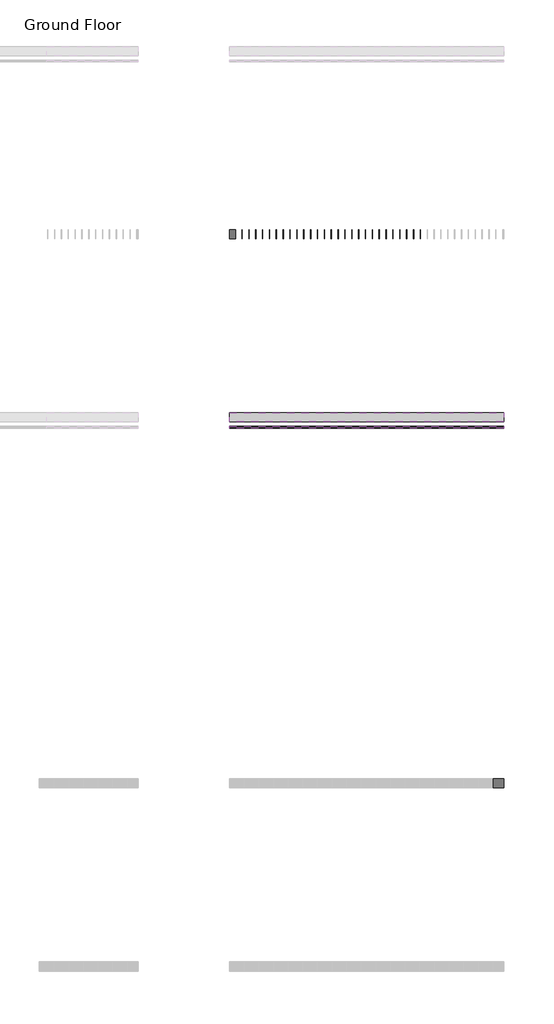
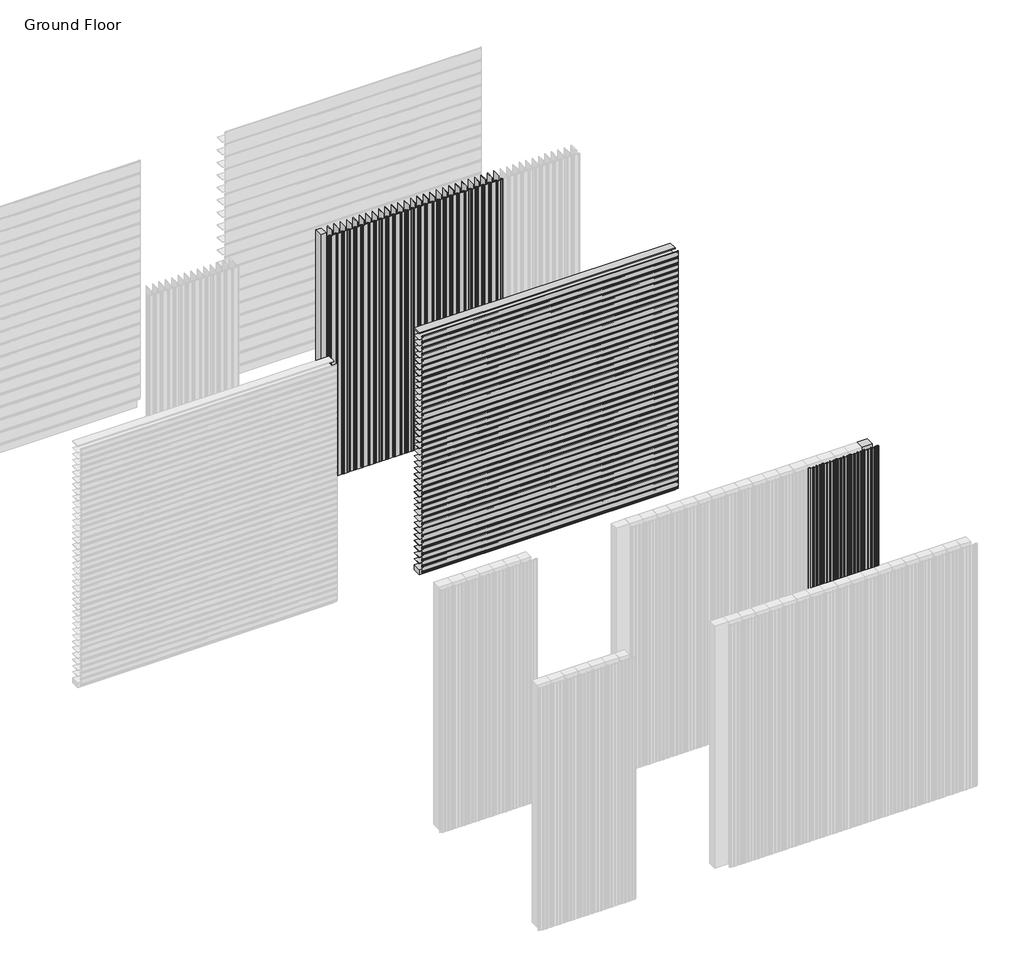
# One storey, part 36 of 350: 71 members, 69 plates.
"""IFC4 building model written with IfcOpenShell, lengths in millimetres."""

from ifc_helpers import new_model, si_unit, origin, place, context, project, spatial, transform, mapped, element, save
from components import rectangular_mullion_73ab8564, rectangular_mullion_894c3da7, empty_system_panel_empty_02c6fd44, empty_system_panel_empty_df7ddcff, empty_system_panel_empty_81cf2ed3, empty_system_panel_empty_a36746fc, empty_system_panel_empty_86793474, empty_system_panel_empty_27b459cb

model = new_model("IFC4")

# Units and contexts
model_context = context("Model", 3, world=origin())
ifc_project = project(units=[si_unit("LENGTHUNIT", "METRE", prefix="MILLI")], contexts=[model_context])

# Site, building, storey
site = spatial("IfcSite", under=ifc_project)
building = spatial("IfcBuilding", under=site)
storey = spatial("IfcBuildingStorey", under=building, Name="Ground Floor", Elevation=0.0)

# Members
placement = place(None, origin())
rectangular_mullion_shape = rectangular_mullion_73ab8564(model_context)
element("IfcMember", 1, ObjectType="Rectangular Mullion : Cladding_Aluminium_Modinex_AluSelekta_Castelation_ScreenClad_160Ultra_WhiteOak", at=placement, inside=storey, context=model_context, shape_type="MappedRepresentation", body=[
    mapped(rectangular_mullion_shape, transform((51156.4361642, 8968.2978302, 0.0), x_axis=(1.0, 0.0, 0.0), y_axis=(0.0, -1.0, 0.0), z_axis=(0.0, 0.0, -1.0))),
])
element("IfcMember", 2, ObjectType="Rectangular Mullion : Cladding_Aluminium_Modinex_AluSelekta_Castelation_ScreenClad_160Ultra_WhiteOak", at=placement, inside=storey, context=model_context, shape_type="MappedRepresentation", body=[
    mapped(rectangular_mullion_shape, transform((51316.4361642, 8968.2978302, 0.0), x_axis=(1.0, 0.0, 0.0), y_axis=(0.0, -1.0, 0.0), z_axis=(0.0, 0.0, -1.0))),
])
element("IfcMember", 3, ObjectType="Rectangular Mullion : Cladding_Aluminium_Modinex_AluSelekta_Castelation_ScreenClad_160Ultra_WhiteOak", at=placement, inside=storey, context=model_context, shape_type="MappedRepresentation", body=[
    mapped(rectangular_mullion_shape, transform((51476.4361642, 8968.2978302, 0.0), x_axis=(1.0, 0.0, 0.0), y_axis=(0.0, -1.0, 0.0), z_axis=(0.0, 0.0, -1.0))),
])
element("IfcMember", 4, ObjectType="Rectangular Mullion : Cladding_Aluminium_Modinex_AluSelekta_Castelation_ScreenClad_160Ultra_WhiteOak", at=placement, inside=storey, context=model_context, shape_type="MappedRepresentation", body=[
    mapped(rectangular_mullion_shape, transform((51636.4361642, 8968.2978302, 0.0), x_axis=(1.0, 0.0, 0.0), y_axis=(0.0, -1.0, 0.0), z_axis=(0.0, 0.0, -1.0))),
])
element("IfcMember", 5, ObjectType="Rectangular Mullion : Cladding_Aluminium_Modinex_AluSelekta_Castelation_ScreenClad_160Ultra_WhiteOak", at=placement, inside=storey, context=model_context, shape_type="MappedRepresentation", body=[
    mapped(rectangular_mullion_shape, transform((51796.4361642, 8968.2978302, 0.0), x_axis=(1.0, 0.0, 0.0), y_axis=(0.0, -1.0, 0.0), z_axis=(0.0, 0.0, -1.0))),
])
rectangular_mullion_2_shape = rectangular_mullion_894c3da7(model_context)
element("IfcMember", 6, ObjectType="Rectangular Mullion : Cladding_Aluminium_Modinex_AluSelekta_Channel_75_WhiteOak", at=placement, inside=storey, context=model_context, shape_type="MappedRepresentation", body=[
    mapped(rectangular_mullion_2_shape, transform((51916.4361639, 12968.2978302, 75.0), x_axis=(0.0, 0.0, 1.0), y_axis=(0.0, -1.0, 0.0), z_axis=(1.0, 0.0, 0.0))),
])
element("IfcMember", 7, ObjectType="Rectangular Mullion : Cladding_Aluminium_Modinex_AluSelekta_Channel_75_WhiteOak", at=placement, inside=storey, context=model_context, shape_type="MappedRepresentation", body=[
    mapped(rectangular_mullion_2_shape, transform((51916.4361639, 12968.2978302, 150.0), x_axis=(0.0, 0.0, 1.0), y_axis=(0.0, -1.0, 0.0), z_axis=(1.0, 0.0, 0.0))),
])
element("IfcMember", 8, ObjectType="Rectangular Mullion : Cladding_Aluminium_Modinex_AluSelekta_Channel_75_WhiteOak", at=placement, inside=storey, context=model_context, shape_type="MappedRepresentation", body=[
    mapped(rectangular_mullion_2_shape, transform((51916.4361639, 12968.2978302, 225.0), x_axis=(0.0, 0.0, 1.0), y_axis=(0.0, -1.0, 0.0), z_axis=(1.0, 0.0, 0.0))),
])
element("IfcMember", 9, ObjectType="Rectangular Mullion : Cladding_Aluminium_Modinex_AluSelekta_Channel_75_WhiteOak", at=placement, inside=storey, context=model_context, shape_type="MappedRepresentation", body=[
    mapped(rectangular_mullion_2_shape, transform((51916.4361639, 12968.2978302, 300.0), x_axis=(0.0, 0.0, 1.0), y_axis=(0.0, -1.0, 0.0), z_axis=(1.0, 0.0, 0.0))),
])
element("IfcMember", 10, ObjectType="Rectangular Mullion : Cladding_Aluminium_Modinex_AluSelekta_Channel_75_WhiteOak", at=placement, inside=storey, context=model_context, shape_type="MappedRepresentation", body=[
    mapped(rectangular_mullion_2_shape, transform((51916.4361639, 12968.2978302, 375.0), x_axis=(0.0, 0.0, 1.0), y_axis=(0.0, -1.0, 0.0), z_axis=(1.0, 0.0, 0.0))),
])
element("IfcMember", 11, ObjectType="Rectangular Mullion : Cladding_Aluminium_Modinex_AluSelekta_Channel_75_WhiteOak", at=placement, inside=storey, context=model_context, shape_type="MappedRepresentation", body=[
    mapped(rectangular_mullion_2_shape, transform((51916.4361639, 12968.2978302, 450.0), x_axis=(0.0, 0.0, 1.0), y_axis=(0.0, -1.0, 0.0), z_axis=(1.0, 0.0, 0.0))),
])
element("IfcMember", 12, ObjectType="Rectangular Mullion : Cladding_Aluminium_Modinex_AluSelekta_Channel_75_WhiteOak", at=placement, inside=storey, context=model_context, shape_type="MappedRepresentation", body=[
    mapped(rectangular_mullion_2_shape, transform((51916.4361639, 12968.2978302, 525.0), x_axis=(0.0, 0.0, 1.0), y_axis=(0.0, -1.0, 0.0), z_axis=(1.0, 0.0, 0.0))),
])
element("IfcMember", 13, ObjectType="Rectangular Mullion : Cladding_Aluminium_Modinex_AluSelekta_Channel_75_WhiteOak", at=placement, inside=storey, context=model_context, shape_type="MappedRepresentation", body=[
    mapped(rectangular_mullion_2_shape, transform((51916.4361639, 12968.2978302, 600.0), x_axis=(0.0, 0.0, 1.0), y_axis=(0.0, -1.0, 0.0), z_axis=(1.0, 0.0, 0.0))),
])
element("IfcMember", 14, ObjectType="Rectangular Mullion : Cladding_Aluminium_Modinex_AluSelekta_Channel_75_WhiteOak", at=placement, inside=storey, context=model_context, shape_type="MappedRepresentation", body=[
    mapped(rectangular_mullion_2_shape, transform((51916.4361639, 12968.2978302, 675.0), x_axis=(0.0, 0.0, 1.0), y_axis=(0.0, -1.0, 0.0), z_axis=(1.0, 0.0, 0.0))),
])
element("IfcMember", 15, ObjectType="Rectangular Mullion : Cladding_Aluminium_Modinex_AluSelekta_Channel_75_WhiteOak", at=placement, inside=storey, context=model_context, shape_type="MappedRepresentation", body=[
    mapped(rectangular_mullion_2_shape, transform((51916.4361639, 12968.2978302, 750.0), x_axis=(0.0, 0.0, 1.0), y_axis=(0.0, -1.0, 0.0), z_axis=(1.0, 0.0, 0.0))),
])
element("IfcMember", 16, ObjectType="Rectangular Mullion : Cladding_Aluminium_Modinex_AluSelekta_Channel_75_WhiteOak", at=placement, inside=storey, context=model_context, shape_type="MappedRepresentation", body=[
    mapped(rectangular_mullion_2_shape, transform((51916.4361639, 12968.2978302, 825.0), x_axis=(0.0, 0.0, 1.0), y_axis=(0.0, -1.0, 0.0), z_axis=(1.0, 0.0, 0.0))),
])
element("IfcMember", 17, ObjectType="Rectangular Mullion : Cladding_Aluminium_Modinex_AluSelekta_Channel_75_WhiteOak", at=placement, inside=storey, context=model_context, shape_type="MappedRepresentation", body=[
    mapped(rectangular_mullion_2_shape, transform((51916.4361639, 12968.2978302, 900.0), x_axis=(0.0, 0.0, 1.0), y_axis=(0.0, -1.0, 0.0), z_axis=(1.0, 0.0, 0.0))),
])
element("IfcMember", 18, ObjectType="Rectangular Mullion : Cladding_Aluminium_Modinex_AluSelekta_Channel_75_WhiteOak", at=placement, inside=storey, context=model_context, shape_type="MappedRepresentation", body=[
    mapped(rectangular_mullion_2_shape, transform((51916.4361639, 12968.2978302, 975.0), x_axis=(0.0, 0.0, 1.0), y_axis=(0.0, -1.0, 0.0), z_axis=(1.0, 0.0, 0.0))),
])
element("IfcMember", 19, ObjectType="Rectangular Mullion : Cladding_Aluminium_Modinex_AluSelekta_Channel_75_WhiteOak", at=placement, inside=storey, context=model_context, shape_type="MappedRepresentation", body=[
    mapped(rectangular_mullion_2_shape, transform((51916.4361639, 12968.2978302, 1050.0), x_axis=(0.0, 0.0, 1.0), y_axis=(0.0, -1.0, 0.0), z_axis=(1.0, 0.0, 0.0))),
])
element("IfcMember", 20, ObjectType="Rectangular Mullion : Cladding_Aluminium_Modinex_AluSelekta_Channel_75_WhiteOak", at=placement, inside=storey, context=model_context, shape_type="MappedRepresentation", body=[
    mapped(rectangular_mullion_2_shape, transform((51916.4361639, 12968.2978302, 1125.0), x_axis=(0.0, 0.0, 1.0), y_axis=(0.0, -1.0, 0.0), z_axis=(1.0, 0.0, 0.0))),
])
element("IfcMember", 21, ObjectType="Rectangular Mullion : Cladding_Aluminium_Modinex_AluSelekta_Channel_75_WhiteOak", at=placement, inside=storey, context=model_context, shape_type="MappedRepresentation", body=[
    mapped(rectangular_mullion_2_shape, transform((51916.4361639, 12968.2978302, 1200.0), x_axis=(0.0, 0.0, 1.0), y_axis=(0.0, -1.0, 0.0), z_axis=(1.0, 0.0, 0.0))),
])
element("IfcMember", 22, ObjectType="Rectangular Mullion : Cladding_Aluminium_Modinex_AluSelekta_Channel_75_WhiteOak", at=placement, inside=storey, context=model_context, shape_type="MappedRepresentation", body=[
    mapped(rectangular_mullion_2_shape, transform((51916.4361639, 12968.2978302, 1275.0), x_axis=(0.0, 0.0, 1.0), y_axis=(0.0, -1.0, 0.0), z_axis=(1.0, 0.0, 0.0))),
])
element("IfcMember", 23, ObjectType="Rectangular Mullion : Cladding_Aluminium_Modinex_AluSelekta_Channel_75_WhiteOak", at=placement, inside=storey, context=model_context, shape_type="MappedRepresentation", body=[
    mapped(rectangular_mullion_2_shape, transform((51916.4361639, 12968.2978302, 1350.0), x_axis=(0.0, 0.0, 1.0), y_axis=(0.0, -1.0, 0.0), z_axis=(1.0, 0.0, 0.0))),
])
element("IfcMember", 24, ObjectType="Rectangular Mullion : Cladding_Aluminium_Modinex_AluSelekta_Channel_75_WhiteOak", at=placement, inside=storey, context=model_context, shape_type="MappedRepresentation", body=[
    mapped(rectangular_mullion_2_shape, transform((51916.4361639, 12968.2978302, 1425.0), x_axis=(0.0, 0.0, 1.0), y_axis=(0.0, -1.0, 0.0), z_axis=(1.0, 0.0, 0.0))),
])
element("IfcMember", 25, ObjectType="Rectangular Mullion : Cladding_Aluminium_Modinex_AluSelekta_Channel_75_WhiteOak", at=placement, inside=storey, context=model_context, shape_type="MappedRepresentation", body=[
    mapped(rectangular_mullion_2_shape, transform((51916.4361639, 12968.2978302, 1500.0), x_axis=(0.0, 0.0, 1.0), y_axis=(0.0, -1.0, 0.0), z_axis=(1.0, 0.0, 0.0))),
])
element("IfcMember", 26, ObjectType="Rectangular Mullion : Cladding_Aluminium_Modinex_AluSelekta_Channel_75_WhiteOak", at=placement, inside=storey, context=model_context, shape_type="MappedRepresentation", body=[
    mapped(rectangular_mullion_2_shape, transform((51916.4361639, 12968.2978302, 1575.0), x_axis=(0.0, 0.0, 1.0), y_axis=(0.0, -1.0, 0.0), z_axis=(1.0, 0.0, 0.0))),
])
element("IfcMember", 27, ObjectType="Rectangular Mullion : Cladding_Aluminium_Modinex_AluSelekta_Channel_75_WhiteOak", at=placement, inside=storey, context=model_context, shape_type="MappedRepresentation", body=[
    mapped(rectangular_mullion_2_shape, transform((51916.4361639, 12968.2978302, 1650.0), x_axis=(0.0, 0.0, 1.0), y_axis=(0.0, -1.0, 0.0), z_axis=(1.0, 0.0, 0.0))),
])
element("IfcMember", 28, ObjectType="Rectangular Mullion : Cladding_Aluminium_Modinex_AluSelekta_Channel_75_WhiteOak", at=placement, inside=storey, context=model_context, shape_type="MappedRepresentation", body=[
    mapped(rectangular_mullion_2_shape, transform((51916.4361639, 12968.2978302, 1725.0), x_axis=(0.0, 0.0, 1.0), y_axis=(0.0, -1.0, 0.0), z_axis=(1.0, 0.0, 0.0))),
])
element("IfcMember", 29, ObjectType="Rectangular Mullion : Cladding_Aluminium_Modinex_AluSelekta_Channel_75_WhiteOak", at=placement, inside=storey, context=model_context, shape_type="MappedRepresentation", body=[
    mapped(rectangular_mullion_2_shape, transform((51916.4361639, 12968.2978302, 1800.0), x_axis=(0.0, 0.0, 1.0), y_axis=(0.0, -1.0, 0.0), z_axis=(1.0, 0.0, 0.0))),
])
element("IfcMember", 30, ObjectType="Rectangular Mullion : Cladding_Aluminium_Modinex_AluSelekta_Channel_75_WhiteOak", at=placement, inside=storey, context=model_context, shape_type="MappedRepresentation", body=[
    mapped(rectangular_mullion_2_shape, transform((51916.4361639, 12968.2978302, 1875.0), x_axis=(0.0, 0.0, 1.0), y_axis=(0.0, -1.0, 0.0), z_axis=(1.0, 0.0, 0.0))),
])
element("IfcMember", 31, ObjectType="Rectangular Mullion : Cladding_Aluminium_Modinex_AluSelekta_Channel_75_WhiteOak", at=placement, inside=storey, context=model_context, shape_type="MappedRepresentation", body=[
    mapped(rectangular_mullion_2_shape, transform((51916.4361639, 12968.2978302, 1950.0), x_axis=(0.0, 0.0, 1.0), y_axis=(0.0, -1.0, 0.0), z_axis=(1.0, 0.0, 0.0))),
])
element("IfcMember", 32, ObjectType="Rectangular Mullion : Cladding_Aluminium_Modinex_AluSelekta_Channel_75_WhiteOak", at=placement, inside=storey, context=model_context, shape_type="MappedRepresentation", body=[
    mapped(rectangular_mullion_2_shape, transform((51916.4361639, 12968.2978302, 2025.0), x_axis=(0.0, 0.0, 1.0), y_axis=(0.0, -1.0, 0.0), z_axis=(1.0, 0.0, 0.0))),
])
element("IfcMember", 33, ObjectType="Rectangular Mullion : Cladding_Aluminium_Modinex_AluSelekta_Channel_75_WhiteOak", at=placement, inside=storey, context=model_context, shape_type="MappedRepresentation", body=[
    mapped(rectangular_mullion_2_shape, transform((51916.4361639, 12968.2978302, 2100.0), x_axis=(0.0, 0.0, 1.0), y_axis=(0.0, -1.0, 0.0), z_axis=(1.0, 0.0, 0.0))),
])
element("IfcMember", 34, ObjectType="Rectangular Mullion : Cladding_Aluminium_Modinex_AluSelekta_Channel_75_WhiteOak", at=placement, inside=storey, context=model_context, shape_type="MappedRepresentation", body=[
    mapped(rectangular_mullion_2_shape, transform((51916.4361639, 12968.2978302, 2175.0), x_axis=(0.0, 0.0, 1.0), y_axis=(0.0, -1.0, 0.0), z_axis=(1.0, 0.0, 0.0))),
])
element("IfcMember", 35, ObjectType="Rectangular Mullion : Cladding_Aluminium_Modinex_AluSelekta_Channel_75_WhiteOak", at=placement, inside=storey, context=model_context, shape_type="MappedRepresentation", body=[
    mapped(rectangular_mullion_2_shape, transform((51916.4361639, 12968.2978302, 2250.0), x_axis=(0.0, 0.0, 1.0), y_axis=(0.0, -1.0, 0.0), z_axis=(1.0, 0.0, 0.0))),
])
element("IfcMember", 36, ObjectType="Rectangular Mullion : Cladding_Aluminium_Modinex_AluSelekta_Channel_75_WhiteOak", at=placement, inside=storey, context=model_context, shape_type="MappedRepresentation", body=[
    mapped(rectangular_mullion_2_shape, transform((51916.4361639, 12968.2978302, 2325.0), x_axis=(0.0, 0.0, 1.0), y_axis=(0.0, -1.0, 0.0), z_axis=(1.0, 0.0, 0.0))),
])
element("IfcMember", 37, ObjectType="Rectangular Mullion : Cladding_Aluminium_Modinex_AluSelekta_Channel_75_WhiteOak", at=placement, inside=storey, context=model_context, shape_type="MappedRepresentation", body=[
    mapped(rectangular_mullion_2_shape, transform((51916.4361639, 12968.2978302, 2400.0), x_axis=(0.0, 0.0, 1.0), y_axis=(0.0, -1.0, 0.0), z_axis=(1.0, 0.0, 0.0))),
])
element("IfcMember", 38, ObjectType="Rectangular Mullion : Cladding_Aluminium_Modinex_AluSelekta_Channel_75_WhiteOak", at=placement, inside=storey, context=model_context, shape_type="MappedRepresentation", body=[
    mapped(rectangular_mullion_2_shape, transform((51916.4361639, 12968.2978302, 2475.0), x_axis=(0.0, 0.0, 1.0), y_axis=(0.0, -1.0, 0.0), z_axis=(1.0, 0.0, 0.0))),
])
element("IfcMember", 39, ObjectType="Rectangular Mullion : Cladding_Aluminium_Modinex_AluSelekta_Channel_75_WhiteOak", at=placement, inside=storey, context=model_context, shape_type="MappedRepresentation", body=[
    mapped(rectangular_mullion_2_shape, transform((51916.4361639, 12968.2978302, 2550.0), x_axis=(0.0, 0.0, 1.0), y_axis=(0.0, -1.0, 0.0), z_axis=(1.0, 0.0, 0.0))),
])
element("IfcMember", 40, ObjectType="Rectangular Mullion : Cladding_Aluminium_Modinex_AluSelekta_Channel_75_WhiteOak", at=placement, inside=storey, context=model_context, shape_type="MappedRepresentation", body=[
    mapped(rectangular_mullion_2_shape, transform((51916.4361639, 12968.2978302, 2625.0), x_axis=(0.0, 0.0, 1.0), y_axis=(0.0, -1.0, 0.0), z_axis=(1.0, 0.0, 0.0))),
])
element("IfcMember", 41, ObjectType="Rectangular Mullion : Cladding_Aluminium_Modinex_AluSelekta_Channel_75_WhiteOak", at=placement, inside=storey, context=model_context, shape_type="MappedRepresentation", body=[
    mapped(rectangular_mullion_2_shape, transform((51916.4361639, 12968.2978302, 2700.0), x_axis=(0.0, 0.0, 1.0), y_axis=(0.0, -1.0, 0.0), z_axis=(1.0, 0.0, 0.0))),
])
element("IfcMember", 42, ObjectType="Rectangular Mullion : Cladding_Aluminium_Modinex_AluSelekta_Channel_75_WhiteOak", at=placement, inside=storey, context=model_context, shape_type="MappedRepresentation", body=[
    mapped(rectangular_mullion_2_shape, transform((51916.4361639, 12968.2978302, 2775.0), x_axis=(0.0, 0.0, 1.0), y_axis=(0.0, -1.0, 0.0), z_axis=(1.0, 0.0, 0.0))),
])
element("IfcMember", 43, ObjectType="Rectangular Mullion : Cladding_Aluminium_Modinex_AluSelekta_Channel_75_WhiteOak", at=placement, inside=storey, context=model_context, shape_type="MappedRepresentation", body=[
    mapped(rectangular_mullion_2_shape, transform((51916.4361639, 12968.2978302, 2850.0), x_axis=(0.0, 0.0, 1.0), y_axis=(0.0, -1.0, 0.0), z_axis=(1.0, 0.0, 0.0))),
])
element("IfcMember", 44, ObjectType="Rectangular Mullion : Cladding_Aluminium_Modinex_AluSelekta_Channel_75_WhiteOak", at=placement, inside=storey, context=model_context, shape_type="MappedRepresentation", body=[
    mapped(rectangular_mullion_2_shape, transform((51916.4361639, 12968.2978302, 2925.0), x_axis=(0.0, 0.0, 1.0), y_axis=(0.0, -1.0, 0.0), z_axis=(1.0, 0.0, 0.0))),
])
element("IfcMember", 45, ObjectType="Rectangular Mullion : Cladding_Aluminium_Modinex_AluSelekta_Channel_75_WhiteOak", at=placement, inside=storey, context=model_context, shape_type="MappedRepresentation", body=[
    mapped(rectangular_mullion_2_shape, transform((50566.4361642, 14968.2978302, 0.0), x_axis=(1.0, 0.0, 0.0), y_axis=(0.0, -1.0, 0.0), z_axis=(0.0, 0.0, -1.0))),
])
element("IfcMember", 46, ObjectType="Rectangular Mullion : Cladding_Aluminium_Modinex_AluSelekta_Channel_75_WhiteOak", at=placement, inside=storey, context=model_context, shape_type="MappedRepresentation", body=[
    mapped(rectangular_mullion_2_shape, transform((50641.4361642, 14968.2978302, 0.0), x_axis=(1.0, 0.0, 0.0), y_axis=(0.0, -1.0, 0.0), z_axis=(0.0, 0.0, -1.0))),
])
element("IfcMember", 47, ObjectType="Rectangular Mullion : Cladding_Aluminium_Modinex_AluSelekta_Channel_75_WhiteOak", at=placement, inside=storey, context=model_context, shape_type="MappedRepresentation", body=[
    mapped(rectangular_mullion_2_shape, transform((50716.4361642, 14968.2978302, 0.0), x_axis=(1.0, 0.0, 0.0), y_axis=(0.0, -1.0, 0.0), z_axis=(0.0, 0.0, -1.0))),
])
element("IfcMember", 48, ObjectType="Rectangular Mullion : Cladding_Aluminium_Modinex_AluSelekta_Channel_75_WhiteOak", at=placement, inside=storey, context=model_context, shape_type="MappedRepresentation", body=[
    mapped(rectangular_mullion_2_shape, transform((50791.4361642, 14968.2978302, 0.0), x_axis=(1.0, 0.0, 0.0), y_axis=(0.0, -1.0, 0.0), z_axis=(0.0, 0.0, -1.0))),
])
element("IfcMember", 49, ObjectType="Rectangular Mullion : Cladding_Aluminium_Modinex_AluSelekta_Channel_75_WhiteOak", at=placement, inside=storey, context=model_context, shape_type="MappedRepresentation", body=[
    mapped(rectangular_mullion_2_shape, transform((50866.4361642, 14968.2978302, 0.0), x_axis=(1.0, 0.0, 0.0), y_axis=(0.0, -1.0, 0.0), z_axis=(0.0, 0.0, -1.0))),
])
element("IfcMember", 50, ObjectType="Rectangular Mullion : Cladding_Aluminium_Modinex_AluSelekta_Channel_75_WhiteOak", at=placement, inside=storey, context=model_context, shape_type="MappedRepresentation", body=[
    mapped(rectangular_mullion_2_shape, transform((50941.4361642, 14968.2978302, 0.0), x_axis=(1.0, 0.0, 0.0), y_axis=(0.0, -1.0, 0.0), z_axis=(0.0, 0.0, -1.0))),
])
element("IfcMember", 51, ObjectType="Rectangular Mullion : Cladding_Aluminium_Modinex_AluSelekta_Channel_75_WhiteOak", at=placement, inside=storey, context=model_context, shape_type="MappedRepresentation", body=[
    mapped(rectangular_mullion_2_shape, transform((50491.4361642, 14968.2978302, 0.0), x_axis=(1.0, 0.0, 0.0), y_axis=(0.0, -1.0, 0.0), z_axis=(0.0, 0.0, -1.0))),
])
element("IfcMember", 52, ObjectType="Rectangular Mullion : Cladding_Aluminium_Modinex_AluSelekta_Channel_75_WhiteOak", at=placement, inside=storey, context=model_context, shape_type="MappedRepresentation", body=[
    mapped(rectangular_mullion_2_shape, transform((50416.4361642, 14968.2978302, 0.0), x_axis=(1.0, 0.0, 0.0), y_axis=(0.0, -1.0, 0.0), z_axis=(0.0, 0.0, -1.0))),
])
element("IfcMember", 53, ObjectType="Rectangular Mullion : Cladding_Aluminium_Modinex_AluSelekta_Channel_75_WhiteOak", at=placement, inside=storey, context=model_context, shape_type="MappedRepresentation", body=[
    mapped(rectangular_mullion_2_shape, transform((50341.4361642, 14968.2978302, 0.0), x_axis=(1.0, 0.0, 0.0), y_axis=(0.0, -1.0, 0.0), z_axis=(0.0, 0.0, -1.0))),
])
element("IfcMember", 54, ObjectType="Rectangular Mullion : Cladding_Aluminium_Modinex_AluSelekta_Channel_75_WhiteOak", at=placement, inside=storey, context=model_context, shape_type="MappedRepresentation", body=[
    mapped(rectangular_mullion_2_shape, transform((50266.4361642, 14968.2978302, 0.0), x_axis=(1.0, 0.0, 0.0), y_axis=(0.0, -1.0, 0.0), z_axis=(0.0, 0.0, -1.0))),
])
element("IfcMember", 55, ObjectType="Rectangular Mullion : Cladding_Aluminium_Modinex_AluSelekta_Channel_75_WhiteOak", at=placement, inside=storey, context=model_context, shape_type="MappedRepresentation", body=[
    mapped(rectangular_mullion_2_shape, transform((50191.4361642, 14968.2978302, 0.0), x_axis=(1.0, 0.0, 0.0), y_axis=(0.0, -1.0, 0.0), z_axis=(0.0, 0.0, -1.0))),
])
element("IfcMember", 56, ObjectType="Rectangular Mullion : Cladding_Aluminium_Modinex_AluSelekta_Channel_75_WhiteOak", at=placement, inside=storey, context=model_context, shape_type="MappedRepresentation", body=[
    mapped(rectangular_mullion_2_shape, transform((50116.4361642, 14968.2978302, 0.0), x_axis=(1.0, 0.0, 0.0), y_axis=(0.0, -1.0, 0.0), z_axis=(0.0, 0.0, -1.0))),
])
element("IfcMember", 57, ObjectType="Rectangular Mullion : Cladding_Aluminium_Modinex_AluSelekta_Channel_75_WhiteOak", at=placement, inside=storey, context=model_context, shape_type="MappedRepresentation", body=[
    mapped(rectangular_mullion_2_shape, transform((50041.4361642, 14968.2978302, 0.0), x_axis=(1.0, 0.0, 0.0), y_axis=(0.0, -1.0, 0.0), z_axis=(0.0, 0.0, -1.0))),
])
element("IfcMember", 58, ObjectType="Rectangular Mullion : Cladding_Aluminium_Modinex_AluSelekta_Channel_75_WhiteOak", at=placement, inside=storey, context=model_context, shape_type="MappedRepresentation", body=[
    mapped(rectangular_mullion_2_shape, transform((49966.4361642, 14968.2978302, 0.0), x_axis=(1.0, 0.0, 0.0), y_axis=(0.0, -1.0, 0.0), z_axis=(0.0, 0.0, -1.0))),
])
element("IfcMember", 59, ObjectType="Rectangular Mullion : Cladding_Aluminium_Modinex_AluSelekta_Channel_75_WhiteOak", at=placement, inside=storey, context=model_context, shape_type="MappedRepresentation", body=[
    mapped(rectangular_mullion_2_shape, transform((49891.4361642, 14968.2978302, 0.0), x_axis=(1.0, 0.0, 0.0), y_axis=(0.0, -1.0, 0.0), z_axis=(0.0, 0.0, -1.0))),
])
element("IfcMember", 60, ObjectType="Rectangular Mullion : Cladding_Aluminium_Modinex_AluSelekta_Channel_75_WhiteOak", at=placement, inside=storey, context=model_context, shape_type="MappedRepresentation", body=[
    mapped(rectangular_mullion_2_shape, transform((49816.4361642, 14968.2978302, 0.0), x_axis=(1.0, 0.0, 0.0), y_axis=(0.0, -1.0, 0.0), z_axis=(0.0, 0.0, -1.0))),
])
element("IfcMember", 61, ObjectType="Rectangular Mullion : Cladding_Aluminium_Modinex_AluSelekta_Channel_75_WhiteOak", at=placement, inside=storey, context=model_context, shape_type="MappedRepresentation", body=[
    mapped(rectangular_mullion_2_shape, transform((49741.4361642, 14968.2978302, 0.0), x_axis=(1.0, 0.0, 0.0), y_axis=(0.0, -1.0, 0.0), z_axis=(0.0, 0.0, -1.0))),
])
element("IfcMember", 62, ObjectType="Rectangular Mullion : Cladding_Aluminium_Modinex_AluSelekta_Channel_75_WhiteOak", at=placement, inside=storey, context=model_context, shape_type="MappedRepresentation", body=[
    mapped(rectangular_mullion_2_shape, transform((49666.4361642, 14968.2978302, 0.0), x_axis=(1.0, 0.0, 0.0), y_axis=(0.0, -1.0, 0.0), z_axis=(0.0, 0.0, -1.0))),
])
element("IfcMember", 63, ObjectType="Rectangular Mullion : Cladding_Aluminium_Modinex_AluSelekta_Channel_75_WhiteOak", at=placement, inside=storey, context=model_context, shape_type="MappedRepresentation", body=[
    mapped(rectangular_mullion_2_shape, transform((49591.4361642, 14968.2978302, 0.0), x_axis=(1.0, 0.0, 0.0), y_axis=(0.0, -1.0, 0.0), z_axis=(0.0, 0.0, -1.0))),
])
element("IfcMember", 64, ObjectType="Rectangular Mullion : Cladding_Aluminium_Modinex_AluSelekta_Channel_75_WhiteOak", at=placement, inside=storey, context=model_context, shape_type="MappedRepresentation", body=[
    mapped(rectangular_mullion_2_shape, transform((49516.4361642, 14968.2978302, 0.0), x_axis=(1.0, 0.0, 0.0), y_axis=(0.0, -1.0, 0.0), z_axis=(0.0, 0.0, -1.0))),
])
element("IfcMember", 65, ObjectType="Rectangular Mullion : Cladding_Aluminium_Modinex_AluSelekta_Channel_75_WhiteOak", at=placement, inside=storey, context=model_context, shape_type="MappedRepresentation", body=[
    mapped(rectangular_mullion_2_shape, transform((49441.4361642, 14968.2978302, 0.0), x_axis=(1.0, 0.0, 0.0), y_axis=(0.0, -1.0, 0.0), z_axis=(0.0, 0.0, -1.0))),
])
element("IfcMember", 66, ObjectType="Rectangular Mullion : Cladding_Aluminium_Modinex_AluSelekta_Channel_75_WhiteOak", at=placement, inside=storey, context=model_context, shape_type="MappedRepresentation", body=[
    mapped(rectangular_mullion_2_shape, transform((49366.4361642, 14968.2978302, 0.0), x_axis=(1.0, 0.0, 0.0), y_axis=(0.0, -1.0, 0.0), z_axis=(0.0, 0.0, -1.0))),
])
element("IfcMember", 67, ObjectType="Rectangular Mullion : Cladding_Aluminium_Modinex_AluSelekta_Channel_75_WhiteOak", at=placement, inside=storey, context=model_context, shape_type="MappedRepresentation", body=[
    mapped(rectangular_mullion_2_shape, transform((49291.4361642, 14968.2978302, 0.0), x_axis=(1.0, 0.0, 0.0), y_axis=(0.0, -1.0, 0.0), z_axis=(0.0, 0.0, -1.0))),
])
element("IfcMember", 68, ObjectType="Rectangular Mullion : Cladding_Aluminium_Modinex_AluSelekta_Channel_75_WhiteOak", at=placement, inside=storey, context=model_context, shape_type="MappedRepresentation", body=[
    mapped(rectangular_mullion_2_shape, transform((49216.4361642, 14968.2978302, 0.0), x_axis=(1.0, 0.0, 0.0), y_axis=(0.0, -1.0, 0.0), z_axis=(0.0, 0.0, -1.0))),
])
element("IfcMember", 69, ObjectType="Rectangular Mullion : Cladding_Aluminium_Modinex_AluSelekta_Channel_75_WhiteOak", at=placement, inside=storey, context=model_context, shape_type="MappedRepresentation", body=[
    mapped(rectangular_mullion_2_shape, transform((49141.4361642, 14968.2978302, 0.0), x_axis=(1.0, 0.0, 0.0), y_axis=(0.0, -1.0, 0.0), z_axis=(0.0, 0.0, -1.0))),
])
element("IfcMember", 70, ObjectType="Rectangular Mullion : Cladding_Aluminium_Modinex_AluSelekta_Channel_75_WhiteOak", at=placement, inside=storey, context=model_context, shape_type="MappedRepresentation", body=[
    mapped(rectangular_mullion_2_shape, transform((49066.4361642, 14968.2978302, 0.0), x_axis=(1.0, 0.0, 0.0), y_axis=(0.0, -1.0, 0.0), z_axis=(0.0, 0.0, -1.0))),
])
element("IfcMember", 71, ObjectType="Rectangular Mullion : Cladding_Aluminium_Modinex_AluSelekta_Channel_75_WhiteOak", at=placement, inside=storey, context=model_context, shape_type="MappedRepresentation", body=[
    mapped(rectangular_mullion_2_shape, transform((48991.4361642, 14968.2978302, 0.0), x_axis=(1.0, 0.0, 0.0), y_axis=(0.0, -1.0, 0.0), z_axis=(0.0, 0.0, -1.0))),
])

# Plates
empty_system_panel_empty_shape = empty_system_panel_empty_02c6fd44(model_context)
element("IfcPlate", 72, ObjectType="Empty System Panel : Empty", at=placement, inside=storey, context=model_context, shape_type="MappedRepresentation", body=[
    mapped(empty_system_panel_empty_shape, transform((50416.4361639, 12968.2978302, 137.2580963), x_axis=(1.0, 0.0, 0.0), y_axis=(0.0, 1.0, 0.0), z_axis=(0.0, 0.0, 1.0))),
])
element("IfcPlate", 73, ObjectType="Empty System Panel : Empty", at=placement, inside=storey, context=model_context, shape_type="MappedRepresentation", body=[
    mapped(empty_system_panel_empty_shape, transform((50416.4361639, 12968.2978302, 212.2580963), x_axis=(1.0, 0.0, 0.0), y_axis=(0.0, 1.0, 0.0), z_axis=(0.0, 0.0, 1.0))),
])
element("IfcPlate", 74, ObjectType="Empty System Panel : Empty", at=placement, inside=storey, context=model_context, shape_type="MappedRepresentation", body=[
    mapped(empty_system_panel_empty_shape, transform((50416.4361639, 12968.2978302, 287.2580963), x_axis=(1.0, 0.0, 0.0), y_axis=(0.0, 1.0, 0.0), z_axis=(0.0, 0.0, 1.0))),
])
element("IfcPlate", 75, ObjectType="Empty System Panel : Empty", at=placement, inside=storey, context=model_context, shape_type="MappedRepresentation", body=[
    mapped(empty_system_panel_empty_shape, transform((50416.4361639, 12968.2978302, 362.2580963), x_axis=(1.0, 0.0, 0.0), y_axis=(0.0, 1.0, 0.0), z_axis=(0.0, 0.0, 1.0))),
])
element("IfcPlate", 76, ObjectType="Empty System Panel : Empty", at=placement, inside=storey, context=model_context, shape_type="MappedRepresentation", body=[
    mapped(empty_system_panel_empty_shape, transform((50416.4361639, 12968.2978302, 437.2580963), x_axis=(1.0, 0.0, 0.0), y_axis=(0.0, 1.0, 0.0), z_axis=(0.0, 0.0, 1.0))),
])
element("IfcPlate", 77, ObjectType="Empty System Panel : Empty", at=placement, inside=storey, context=model_context, shape_type="MappedRepresentation", body=[
    mapped(empty_system_panel_empty_shape, transform((50416.4361639, 12968.2978302, 512.2580963), x_axis=(1.0, 0.0, 0.0), y_axis=(0.0, 1.0, 0.0), z_axis=(0.0, 0.0, 1.0))),
])
element("IfcPlate", 78, ObjectType="Empty System Panel : Empty", at=placement, inside=storey, context=model_context, shape_type="MappedRepresentation", body=[
    mapped(empty_system_panel_empty_shape, transform((50416.4361639, 12968.2978302, 587.2580963), x_axis=(1.0, 0.0, 0.0), y_axis=(0.0, 1.0, 0.0), z_axis=(0.0, 0.0, 1.0))),
])
element("IfcPlate", 79, ObjectType="Empty System Panel : Empty", at=placement, inside=storey, context=model_context, shape_type="MappedRepresentation", body=[
    mapped(empty_system_panel_empty_shape, transform((50416.4361639, 12968.2978302, 662.2580963), x_axis=(1.0, 0.0, 0.0), y_axis=(0.0, 1.0, 0.0), z_axis=(0.0, 0.0, 1.0))),
])
element("IfcPlate", 80, ObjectType="Empty System Panel : Empty", at=placement, inside=storey, context=model_context, shape_type="MappedRepresentation", body=[
    mapped(empty_system_panel_empty_shape, transform((50416.4361639, 12968.2978302, 737.2580963), x_axis=(1.0, 0.0, 0.0), y_axis=(0.0, 1.0, 0.0), z_axis=(0.0, 0.0, 1.0))),
])
element("IfcPlate", 81, ObjectType="Empty System Panel : Empty", at=placement, inside=storey, context=model_context, shape_type="MappedRepresentation", body=[
    mapped(empty_system_panel_empty_shape, transform((50416.4361639, 12968.2978302, 812.2580963), x_axis=(1.0, 0.0, 0.0), y_axis=(0.0, 1.0, 0.0), z_axis=(0.0, 0.0, 1.0))),
])
element("IfcPlate", 82, ObjectType="Empty System Panel : Empty", at=placement, inside=storey, context=model_context, shape_type="MappedRepresentation", body=[
    mapped(empty_system_panel_empty_shape, transform((50416.4361639, 12968.2978302, 887.2580963), x_axis=(1.0, 0.0, 0.0), y_axis=(0.0, 1.0, 0.0), z_axis=(0.0, 0.0, 1.0))),
])
element("IfcPlate", 83, ObjectType="Empty System Panel : Empty", at=placement, inside=storey, context=model_context, shape_type="MappedRepresentation", body=[
    mapped(empty_system_panel_empty_shape, transform((50416.4361639, 12968.2978302, 962.2580963), x_axis=(1.0, 0.0, 0.0), y_axis=(0.0, 1.0, 0.0), z_axis=(0.0, 0.0, 1.0))),
])
element("IfcPlate", 84, ObjectType="Empty System Panel : Empty", at=placement, inside=storey, context=model_context, shape_type="MappedRepresentation", body=[
    mapped(empty_system_panel_empty_shape, transform((50416.4361639, 12968.2978302, 1037.2580963), x_axis=(1.0, 0.0, 0.0), y_axis=(0.0, 1.0, 0.0), z_axis=(0.0, 0.0, 1.0))),
])
element("IfcPlate", 85, ObjectType="Empty System Panel : Empty", at=placement, inside=storey, context=model_context, shape_type="MappedRepresentation", body=[
    mapped(empty_system_panel_empty_shape, transform((50416.4361639, 12968.2978302, 1112.2580963), x_axis=(1.0, 0.0, 0.0), y_axis=(0.0, 1.0, 0.0), z_axis=(0.0, 0.0, 1.0))),
])
element("IfcPlate", 86, ObjectType="Empty System Panel : Empty", at=placement, inside=storey, context=model_context, shape_type="MappedRepresentation", body=[
    mapped(empty_system_panel_empty_shape, transform((50416.4361639, 12968.2978302, 1187.2580963), x_axis=(1.0, 0.0, 0.0), y_axis=(0.0, 1.0, 0.0), z_axis=(0.0, 0.0, 1.0))),
])
element("IfcPlate", 87, ObjectType="Empty System Panel : Empty", at=placement, inside=storey, context=model_context, shape_type="MappedRepresentation", body=[
    mapped(empty_system_panel_empty_shape, transform((50416.4361639, 12968.2978302, 1262.2580963), x_axis=(1.0, 0.0, 0.0), y_axis=(0.0, 1.0, 0.0), z_axis=(0.0, 0.0, 1.0))),
])
element("IfcPlate", 88, ObjectType="Empty System Panel : Empty", at=placement, inside=storey, context=model_context, shape_type="MappedRepresentation", body=[
    mapped(empty_system_panel_empty_shape, transform((50416.4361639, 12968.2978302, 1337.2580963), x_axis=(1.0, 0.0, 0.0), y_axis=(0.0, 1.0, 0.0), z_axis=(0.0, 0.0, 1.0))),
])
element("IfcPlate", 89, ObjectType="Empty System Panel : Empty", at=placement, inside=storey, context=model_context, shape_type="MappedRepresentation", body=[
    mapped(empty_system_panel_empty_shape, transform((50416.4361639, 12968.2978302, 1412.2580963), x_axis=(1.0, 0.0, 0.0), y_axis=(0.0, 1.0, 0.0), z_axis=(0.0, 0.0, 1.0))),
])
element("IfcPlate", 90, ObjectType="Empty System Panel : Empty", at=placement, inside=storey, context=model_context, shape_type="MappedRepresentation", body=[
    mapped(empty_system_panel_empty_shape, transform((50416.4361639, 12968.2978302, 1487.2580963), x_axis=(1.0, 0.0, 0.0), y_axis=(0.0, 1.0, 0.0), z_axis=(0.0, 0.0, 1.0))),
])
element("IfcPlate", 91, ObjectType="Empty System Panel : Empty", at=placement, inside=storey, context=model_context, shape_type="MappedRepresentation", body=[
    mapped(empty_system_panel_empty_shape, transform((50416.4361639, 12968.2978302, 1562.2580963), x_axis=(1.0, 0.0, 0.0), y_axis=(0.0, 1.0, 0.0), z_axis=(0.0, 0.0, 1.0))),
])
element("IfcPlate", 92, ObjectType="Empty System Panel : Empty", at=placement, inside=storey, context=model_context, shape_type="MappedRepresentation", body=[
    mapped(empty_system_panel_empty_shape, transform((50416.4361639, 12968.2978302, 1637.2580963), x_axis=(1.0, 0.0, 0.0), y_axis=(0.0, 1.0, 0.0), z_axis=(0.0, 0.0, 1.0))),
])
element("IfcPlate", 93, ObjectType="Empty System Panel : Empty", at=placement, inside=storey, context=model_context, shape_type="MappedRepresentation", body=[
    mapped(empty_system_panel_empty_shape, transform((50416.4361639, 12968.2978302, 1712.2580963), x_axis=(1.0, 0.0, 0.0), y_axis=(0.0, 1.0, 0.0), z_axis=(0.0, 0.0, 1.0))),
])
element("IfcPlate", 94, ObjectType="Empty System Panel : Empty", at=placement, inside=storey, context=model_context, shape_type="MappedRepresentation", body=[
    mapped(empty_system_panel_empty_shape, transform((50416.4361639, 12968.2978302, 1787.2580963), x_axis=(1.0, 0.0, 0.0), y_axis=(0.0, 1.0, 0.0), z_axis=(0.0, 0.0, 1.0))),
])
element("IfcPlate", 95, ObjectType="Empty System Panel : Empty", at=placement, inside=storey, context=model_context, shape_type="MappedRepresentation", body=[
    mapped(empty_system_panel_empty_shape, transform((50416.4361639, 12968.2978302, 1862.2580963), x_axis=(1.0, 0.0, 0.0), y_axis=(0.0, 1.0, 0.0), z_axis=(0.0, 0.0, 1.0))),
])
element("IfcPlate", 96, ObjectType="Empty System Panel : Empty", at=placement, inside=storey, context=model_context, shape_type="MappedRepresentation", body=[
    mapped(empty_system_panel_empty_shape, transform((50416.4361639, 12968.2978302, 1937.2580963), x_axis=(1.0, 0.0, 0.0), y_axis=(0.0, 1.0, 0.0), z_axis=(0.0, 0.0, 1.0))),
])
element("IfcPlate", 97, ObjectType="Empty System Panel : Empty", at=placement, inside=storey, context=model_context, shape_type="MappedRepresentation", body=[
    mapped(empty_system_panel_empty_shape, transform((50416.4361639, 12968.2978302, 2012.2580963), x_axis=(1.0, 0.0, 0.0), y_axis=(0.0, 1.0, 0.0), z_axis=(0.0, 0.0, 1.0))),
])
element("IfcPlate", 98, ObjectType="Empty System Panel : Empty", at=placement, inside=storey, context=model_context, shape_type="MappedRepresentation", body=[
    mapped(empty_system_panel_empty_shape, transform((50416.4361639, 12968.2978302, 2087.2580963), x_axis=(1.0, 0.0, 0.0), y_axis=(0.0, 1.0, 0.0), z_axis=(0.0, 0.0, 1.0))),
])
element("IfcPlate", 99, ObjectType="Empty System Panel : Empty", at=placement, inside=storey, context=model_context, shape_type="MappedRepresentation", body=[
    mapped(empty_system_panel_empty_shape, transform((50416.4361639, 12968.2978302, 2162.2580963), x_axis=(1.0, 0.0, 0.0), y_axis=(0.0, 1.0, 0.0), z_axis=(0.0, 0.0, 1.0))),
])
element("IfcPlate", 100, ObjectType="Empty System Panel : Empty", at=placement, inside=storey, context=model_context, shape_type="MappedRepresentation", body=[
    mapped(empty_system_panel_empty_shape, transform((50416.4361639, 12968.2978302, 2237.2580963), x_axis=(1.0, 0.0, 0.0), y_axis=(0.0, 1.0, 0.0), z_axis=(0.0, 0.0, 1.0))),
])
element("IfcPlate", 101, ObjectType="Empty System Panel : Empty", at=placement, inside=storey, context=model_context, shape_type="MappedRepresentation", body=[
    mapped(empty_system_panel_empty_shape, transform((50416.4361639, 12968.2978302, 2312.2580963), x_axis=(1.0, 0.0, 0.0), y_axis=(0.0, 1.0, 0.0), z_axis=(0.0, 0.0, 1.0))),
])
element("IfcPlate", 102, ObjectType="Empty System Panel : Empty", at=placement, inside=storey, context=model_context, shape_type="MappedRepresentation", body=[
    mapped(empty_system_panel_empty_shape, transform((50416.4361639, 12968.2978302, 2387.2580963), x_axis=(1.0, 0.0, 0.0), y_axis=(0.0, 1.0, 0.0), z_axis=(0.0, 0.0, 1.0))),
])
element("IfcPlate", 103, ObjectType="Empty System Panel : Empty", at=placement, inside=storey, context=model_context, shape_type="MappedRepresentation", body=[
    mapped(empty_system_panel_empty_shape, transform((50416.4361639, 12968.2978302, 2462.2580963), x_axis=(1.0, 0.0, 0.0), y_axis=(0.0, 1.0, 0.0), z_axis=(0.0, 0.0, 1.0))),
])
element("IfcPlate", 104, ObjectType="Empty System Panel : Empty", at=placement, inside=storey, context=model_context, shape_type="MappedRepresentation", body=[
    mapped(empty_system_panel_empty_shape, transform((50416.4361639, 12968.2978302, 2537.2580963), x_axis=(1.0, 0.0, 0.0), y_axis=(0.0, 1.0, 0.0), z_axis=(0.0, 0.0, 1.0))),
])
element("IfcPlate", 105, ObjectType="Empty System Panel : Empty", at=placement, inside=storey, context=model_context, shape_type="MappedRepresentation", body=[
    mapped(empty_system_panel_empty_shape, transform((50416.4361639, 12968.2978302, 2612.2580963), x_axis=(1.0, 0.0, 0.0), y_axis=(0.0, 1.0, 0.0), z_axis=(0.0, 0.0, 1.0))),
])
element("IfcPlate", 106, ObjectType="Empty System Panel : Empty", at=placement, inside=storey, context=model_context, shape_type="MappedRepresentation", body=[
    mapped(empty_system_panel_empty_shape, transform((50416.4361639, 12968.2978302, 2687.2580963), x_axis=(1.0, 0.0, 0.0), y_axis=(0.0, 1.0, 0.0), z_axis=(0.0, 0.0, 1.0))),
])
element("IfcPlate", 107, ObjectType="Empty System Panel : Empty", at=placement, inside=storey, context=model_context, shape_type="MappedRepresentation", body=[
    mapped(empty_system_panel_empty_shape, transform((50416.4361639, 12968.2978302, 2762.2580963), x_axis=(1.0, 0.0, 0.0), y_axis=(0.0, 1.0, 0.0), z_axis=(0.0, 0.0, 1.0))),
])
element("IfcPlate", 108, ObjectType="Empty System Panel : Empty", at=placement, inside=storey, context=model_context, shape_type="MappedRepresentation", body=[
    mapped(empty_system_panel_empty_shape, transform((50416.4361639, 12968.2978302, 2837.2580963), x_axis=(1.0, 0.0, 0.0), y_axis=(0.0, 1.0, 0.0), z_axis=(0.0, 0.0, 1.0))),
])
element("IfcPlate", 109, ObjectType="Empty System Panel : Empty", at=placement, inside=storey, context=model_context, shape_type="MappedRepresentation", body=[
    mapped(empty_system_panel_empty_shape, transform((50416.4361639, 12968.2978302, 2912.2580963), x_axis=(1.0, 0.0, 0.0), y_axis=(0.0, 1.0, 0.0), z_axis=(0.0, 0.0, 1.0))),
])
empty_system_panel_empty_2_shape = empty_system_panel_empty_df7ddcff(model_context)
element("IfcPlate", 110, ObjectType="Empty System Panel : Empty", at=placement, inside=storey, context=model_context, shape_type="MappedRepresentation", body=[
    mapped(empty_system_panel_empty_2_shape, transform((51856.4361641, 8968.2978302, 0.0), x_axis=(1.0, 0.0, 0.0), y_axis=(0.0, 1.0, 0.0), z_axis=(0.0, 0.0, 1.0))),
])
empty_system_panel_empty_3_shape = empty_system_panel_empty_81cf2ed3(model_context)
element("IfcPlate", 111, ObjectType="Empty System Panel : Empty", at=placement, inside=storey, context=model_context, shape_type="MappedRepresentation", body=[
    mapped(empty_system_panel_empty_3_shape, transform((50416.4361639, 12968.2978302, 0.0), x_axis=(1.0, 0.0, 0.0), y_axis=(0.0, 1.0, 0.0), z_axis=(0.0, 0.0, 1.0))),
])
empty_system_panel_empty_4_shape = empty_system_panel_empty_a36746fc(model_context)
element("IfcPlate", 112, ObjectType="Empty System Panel : Empty", at=placement, inside=storey, context=model_context, shape_type="MappedRepresentation", body=[
    mapped(empty_system_panel_empty_4_shape, transform((50416.4361639, 12968.2978302, 2987.2580963), x_axis=(1.0, 0.0, 0.0), y_axis=(0.0, 1.0, 0.0), z_axis=(0.0, 0.0, 1.0))),
])
empty_system_panel_empty_5_shape = empty_system_panel_empty_86793474(model_context)
element("IfcPlate", 113, ObjectType="Empty System Panel : Empty", at=placement, inside=storey, context=model_context, shape_type="MappedRepresentation", body=[
    mapped(empty_system_panel_empty_5_shape, transform((48948.8238843, 14968.2978302, 0.0), x_axis=(1.0, 0.0, 0.0), y_axis=(0.0, 1.0, 0.0), z_axis=(0.0, 0.0, 1.0))),
])
empty_system_panel_empty_6_shape = empty_system_panel_empty_27b459cb(model_context)
element("IfcPlate", 114, ObjectType="Empty System Panel : Empty", at=placement, inside=storey, context=model_context, shape_type="MappedRepresentation", body=[
    mapped(empty_system_panel_empty_6_shape, transform((50629.9529326, 14968.2978302, 0.0), x_axis=(1.0, 0.0, 0.0), y_axis=(0.0, 1.0, 0.0), z_axis=(0.0, 0.0, 1.0))),
])
element("IfcPlate", 115, ObjectType="Empty System Panel : Empty", at=placement, inside=storey, context=model_context, shape_type="MappedRepresentation", body=[
    mapped(empty_system_panel_empty_6_shape, transform((50704.9529326, 14968.2978302, 0.0), x_axis=(1.0, 0.0, 0.0), y_axis=(0.0, 1.0, 0.0), z_axis=(0.0, 0.0, 1.0))),
])
element("IfcPlate", 116, ObjectType="Empty System Panel : Empty", at=placement, inside=storey, context=model_context, shape_type="MappedRepresentation", body=[
    mapped(empty_system_panel_empty_6_shape, transform((50779.9529326, 14968.2978302, 0.0), x_axis=(1.0, 0.0, 0.0), y_axis=(0.0, 1.0, 0.0), z_axis=(0.0, 0.0, 1.0))),
])
element("IfcPlate", 117, ObjectType="Empty System Panel : Empty", at=placement, inside=storey, context=model_context, shape_type="MappedRepresentation", body=[
    mapped(empty_system_panel_empty_6_shape, transform((50854.9529326, 14968.2978302, 0.0), x_axis=(1.0, 0.0, 0.0), y_axis=(0.0, 1.0, 0.0), z_axis=(0.0, 0.0, 1.0))),
])
element("IfcPlate", 118, ObjectType="Empty System Panel : Empty", at=placement, inside=storey, context=model_context, shape_type="MappedRepresentation", body=[
    mapped(empty_system_panel_empty_6_shape, transform((50929.9529326, 14968.2978302, 0.0), x_axis=(1.0, 0.0, 0.0), y_axis=(0.0, 1.0, 0.0), z_axis=(0.0, 0.0, 1.0))),
])
element("IfcPlate", 119, ObjectType="Empty System Panel : Empty", at=placement, inside=storey, context=model_context, shape_type="MappedRepresentation", body=[
    mapped(empty_system_panel_empty_6_shape, transform((51004.9529326, 14968.2978302, 0.0), x_axis=(1.0, 0.0, 0.0), y_axis=(0.0, 1.0, 0.0), z_axis=(0.0, 0.0, 1.0))),
])
element("IfcPlate", 120, ObjectType="Empty System Panel : Empty", at=placement, inside=storey, context=model_context, shape_type="MappedRepresentation", body=[
    mapped(empty_system_panel_empty_6_shape, transform((50554.9529326, 14968.2978302, 0.0), x_axis=(1.0, 0.0, 0.0), y_axis=(0.0, 1.0, 0.0), z_axis=(0.0, 0.0, 1.0))),
])
element("IfcPlate", 121, ObjectType="Empty System Panel : Empty", at=placement, inside=storey, context=model_context, shape_type="MappedRepresentation", body=[
    mapped(empty_system_panel_empty_6_shape, transform((50479.9529326, 14968.2978302, 0.0), x_axis=(1.0, 0.0, 0.0), y_axis=(0.0, 1.0, 0.0), z_axis=(0.0, 0.0, 1.0))),
])
element("IfcPlate", 122, ObjectType="Empty System Panel : Empty", at=placement, inside=storey, context=model_context, shape_type="MappedRepresentation", body=[
    mapped(empty_system_panel_empty_6_shape, transform((50404.9529326, 14968.2978302, 0.0), x_axis=(1.0, 0.0, 0.0), y_axis=(0.0, 1.0, 0.0), z_axis=(0.0, 0.0, 1.0))),
])
element("IfcPlate", 123, ObjectType="Empty System Panel : Empty", at=placement, inside=storey, context=model_context, shape_type="MappedRepresentation", body=[
    mapped(empty_system_panel_empty_6_shape, transform((50329.9529326, 14968.2978302, 0.0), x_axis=(1.0, 0.0, 0.0), y_axis=(0.0, 1.0, 0.0), z_axis=(0.0, 0.0, 1.0))),
])
element("IfcPlate", 124, ObjectType="Empty System Panel : Empty", at=placement, inside=storey, context=model_context, shape_type="MappedRepresentation", body=[
    mapped(empty_system_panel_empty_6_shape, transform((50254.9529326, 14968.2978302, 0.0), x_axis=(1.0, 0.0, 0.0), y_axis=(0.0, 1.0, 0.0), z_axis=(0.0, 0.0, 1.0))),
])
element("IfcPlate", 125, ObjectType="Empty System Panel : Empty", at=placement, inside=storey, context=model_context, shape_type="MappedRepresentation", body=[
    mapped(empty_system_panel_empty_6_shape, transform((50179.9529326, 14968.2978302, 0.0), x_axis=(1.0, 0.0, 0.0), y_axis=(0.0, 1.0, 0.0), z_axis=(0.0, 0.0, 1.0))),
])
element("IfcPlate", 126, ObjectType="Empty System Panel : Empty", at=placement, inside=storey, context=model_context, shape_type="MappedRepresentation", body=[
    mapped(empty_system_panel_empty_6_shape, transform((50104.9529326, 14968.2978302, 0.0), x_axis=(1.0, 0.0, 0.0), y_axis=(0.0, 1.0, 0.0), z_axis=(0.0, 0.0, 1.0))),
])
element("IfcPlate", 127, ObjectType="Empty System Panel : Empty", at=placement, inside=storey, context=model_context, shape_type="MappedRepresentation", body=[
    mapped(empty_system_panel_empty_6_shape, transform((50029.9529326, 14968.2978302, 0.0), x_axis=(1.0, 0.0, 0.0), y_axis=(0.0, 1.0, 0.0), z_axis=(0.0, 0.0, 1.0))),
])
element("IfcPlate", 128, ObjectType="Empty System Panel : Empty", at=placement, inside=storey, context=model_context, shape_type="MappedRepresentation", body=[
    mapped(empty_system_panel_empty_6_shape, transform((49954.9529326, 14968.2978302, 0.0), x_axis=(1.0, 0.0, 0.0), y_axis=(0.0, 1.0, 0.0), z_axis=(0.0, 0.0, 1.0))),
])
element("IfcPlate", 129, ObjectType="Empty System Panel : Empty", at=placement, inside=storey, context=model_context, shape_type="MappedRepresentation", body=[
    mapped(empty_system_panel_empty_6_shape, transform((49879.9529326, 14968.2978302, 0.0), x_axis=(1.0, 0.0, 0.0), y_axis=(0.0, 1.0, 0.0), z_axis=(0.0, 0.0, 1.0))),
])
element("IfcPlate", 130, ObjectType="Empty System Panel : Empty", at=placement, inside=storey, context=model_context, shape_type="MappedRepresentation", body=[
    mapped(empty_system_panel_empty_6_shape, transform((49804.9529326, 14968.2978302, 0.0), x_axis=(1.0, 0.0, 0.0), y_axis=(0.0, 1.0, 0.0), z_axis=(0.0, 0.0, 1.0))),
])
element("IfcPlate", 131, ObjectType="Empty System Panel : Empty", at=placement, inside=storey, context=model_context, shape_type="MappedRepresentation", body=[
    mapped(empty_system_panel_empty_6_shape, transform((49729.9529326, 14968.2978302, 0.0), x_axis=(1.0, 0.0, 0.0), y_axis=(0.0, 1.0, 0.0), z_axis=(0.0, 0.0, 1.0))),
])
element("IfcPlate", 132, ObjectType="Empty System Panel : Empty", at=placement, inside=storey, context=model_context, shape_type="MappedRepresentation", body=[
    mapped(empty_system_panel_empty_6_shape, transform((49654.9529326, 14968.2978302, 0.0), x_axis=(1.0, 0.0, 0.0), y_axis=(0.0, 1.0, 0.0), z_axis=(0.0, 0.0, 1.0))),
])
element("IfcPlate", 133, ObjectType="Empty System Panel : Empty", at=placement, inside=storey, context=model_context, shape_type="MappedRepresentation", body=[
    mapped(empty_system_panel_empty_6_shape, transform((49579.9529326, 14968.2978302, 0.0), x_axis=(1.0, 0.0, 0.0), y_axis=(0.0, 1.0, 0.0), z_axis=(0.0, 0.0, 1.0))),
])
element("IfcPlate", 134, ObjectType="Empty System Panel : Empty", at=placement, inside=storey, context=model_context, shape_type="MappedRepresentation", body=[
    mapped(empty_system_panel_empty_6_shape, transform((49504.9529326, 14968.2978302, 0.0), x_axis=(1.0, 0.0, 0.0), y_axis=(0.0, 1.0, 0.0), z_axis=(0.0, 0.0, 1.0))),
])
element("IfcPlate", 135, ObjectType="Empty System Panel : Empty", at=placement, inside=storey, context=model_context, shape_type="MappedRepresentation", body=[
    mapped(empty_system_panel_empty_6_shape, transform((49429.9529326, 14968.2978302, 0.0), x_axis=(1.0, 0.0, 0.0), y_axis=(0.0, 1.0, 0.0), z_axis=(0.0, 0.0, 1.0))),
])
element("IfcPlate", 136, ObjectType="Empty System Panel : Empty", at=placement, inside=storey, context=model_context, shape_type="MappedRepresentation", body=[
    mapped(empty_system_panel_empty_6_shape, transform((49354.9529326, 14968.2978302, 0.0), x_axis=(1.0, 0.0, 0.0), y_axis=(0.0, 1.0, 0.0), z_axis=(0.0, 0.0, 1.0))),
])
element("IfcPlate", 137, ObjectType="Empty System Panel : Empty", at=placement, inside=storey, context=model_context, shape_type="MappedRepresentation", body=[
    mapped(empty_system_panel_empty_6_shape, transform((49279.9529326, 14968.2978302, 0.0), x_axis=(1.0, 0.0, 0.0), y_axis=(0.0, 1.0, 0.0), z_axis=(0.0, 0.0, 1.0))),
])
element("IfcPlate", 138, ObjectType="Empty System Panel : Empty", at=placement, inside=storey, context=model_context, shape_type="MappedRepresentation", body=[
    mapped(empty_system_panel_empty_6_shape, transform((49204.9529326, 14968.2978302, 0.0), x_axis=(1.0, 0.0, 0.0), y_axis=(0.0, 1.0, 0.0), z_axis=(0.0, 0.0, 1.0))),
])
element("IfcPlate", 139, ObjectType="Empty System Panel : Empty", at=placement, inside=storey, context=model_context, shape_type="MappedRepresentation", body=[
    mapped(empty_system_panel_empty_6_shape, transform((49129.9529326, 14968.2978302, 0.0), x_axis=(1.0, 0.0, 0.0), y_axis=(0.0, 1.0, 0.0), z_axis=(0.0, 0.0, 1.0))),
])
element("IfcPlate", 140, ObjectType="Empty System Panel : Empty", at=placement, inside=storey, context=model_context, shape_type="MappedRepresentation", body=[
    mapped(empty_system_panel_empty_6_shape, transform((49054.9529326, 14968.2978302, 0.0), x_axis=(1.0, 0.0, 0.0), y_axis=(0.0, 1.0, 0.0), z_axis=(0.0, 0.0, 1.0))),
])

save(model, "model.ifc")
